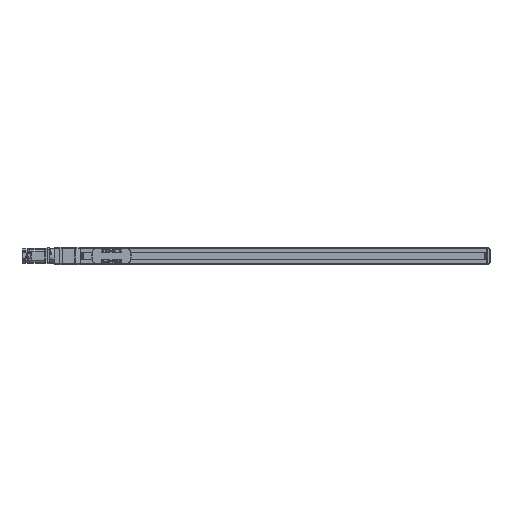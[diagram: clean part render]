
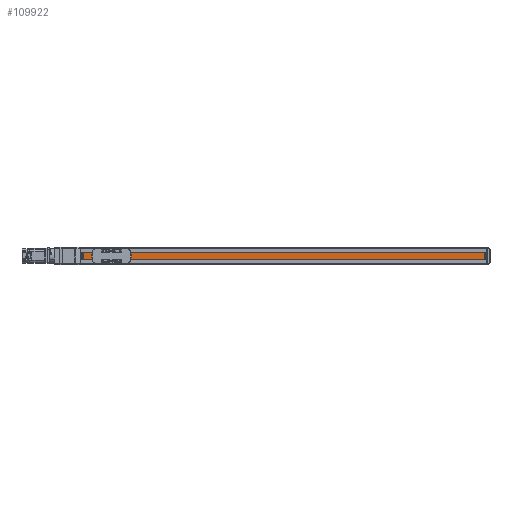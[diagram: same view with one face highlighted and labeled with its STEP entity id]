
A CAD part, top view. The second image highlights one B-rep face of the part: STEP entity #109922.
In plain terms, the highlighted planar face has unit normal (0, 0, 1) as drawn and (0, 1, 0) by its records, which use the part's own axes.
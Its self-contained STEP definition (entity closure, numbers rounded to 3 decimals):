
#109922 = ADVANCED_FACE('',(#109923),#109937,.T.);
#109923 = FACE_BOUND('',#109924,.T.);
#109924 = EDGE_LOOP('',(#109925,#109960,#109988,#110016));
#109925 = ORIENTED_EDGE('',*,*,#109926,.F.);
#109926 = EDGE_CURVE('',#109927,#109929,#109931,.T.);
#109927 = VERTEX_POINT('',#109928);
#109928 = CARTESIAN_POINT('',(-1530.5,18.,-13.));
#109929 = VERTEX_POINT('',#109930);
#109930 = CARTESIAN_POINT('',(-21.5,18.,-13.));
#109931 = SURFACE_CURVE('',#109932,(#109936,#109948),.PCURVE_S1.);
#109932 = LINE('',#109933,#109934);
#109933 = CARTESIAN_POINT('',(-1530.5,18.,-13.));
#109934 = VECTOR('',#109935,1.);
#109935 = DIRECTION('',(1.,0.,0.));
#109936 = PCURVE('',#109937,#109942);
#109937 = PLANE('',#109938);
#109938 = AXIS2_PLACEMENT_3D('',#109939,#109940,#109941);
#109939 = CARTESIAN_POINT('',(-1540.5,18.,-26.583));
#109940 = DIRECTION('',(0.,1.,0.));
#109941 = DIRECTION('',(0.,-0.,1.));
#109942 = DEFINITIONAL_REPRESENTATION('',(#109943),#109947);
#109943 = LINE('',#109944,#109945);
#109944 = CARTESIAN_POINT('',(13.583,10.));
#109945 = VECTOR('',#109946,1.);
#109946 = DIRECTION('',(0.,1.));
#109947 = ( GEOMETRIC_REPRESENTATION_CONTEXT(2) 
PARAMETRIC_REPRESENTATION_CONTEXT() REPRESENTATION_CONTEXT('2D SPACE',''
  ) );
#109948 = PCURVE('',#109949,#109954);
#109949 = PLANE('',#109950);
#109950 = AXIS2_PLACEMENT_3D('',#109951,#109952,#109953);
#109951 = CARTESIAN_POINT('',(-1530.5,18.,-13.));
#109952 = DIRECTION('',(0.,0.,1.));
#109953 = DIRECTION('',(1.,0.,-0.));
#109954 = DEFINITIONAL_REPRESENTATION('',(#109955),#109959);
#109955 = LINE('',#109956,#109957);
#109956 = CARTESIAN_POINT('',(0.,0.));
#109957 = VECTOR('',#109958,1.);
#109958 = DIRECTION('',(1.,0.));
#109959 = ( GEOMETRIC_REPRESENTATION_CONTEXT(2) 
PARAMETRIC_REPRESENTATION_CONTEXT() REPRESENTATION_CONTEXT('2D SPACE',''
  ) );
#109960 = ORIENTED_EDGE('',*,*,#109961,.T.);
#109961 = EDGE_CURVE('',#109927,#109962,#109964,.T.);
#109962 = VERTEX_POINT('',#109963);
#109963 = CARTESIAN_POINT('',(-1530.5,18.,13.));
#109964 = SURFACE_CURVE('',#109965,(#109969,#109976),.PCURVE_S1.);
#109965 = LINE('',#109966,#109967);
#109966 = CARTESIAN_POINT('',(-1530.5,18.,-26.583));
#109967 = VECTOR('',#109968,1.);
#109968 = DIRECTION('',(0.,0.,1.));
#109969 = PCURVE('',#109937,#109970);
#109970 = DEFINITIONAL_REPRESENTATION('',(#109971),#109975);
#109971 = LINE('',#109972,#109973);
#109972 = CARTESIAN_POINT('',(0.,10.));
#109973 = VECTOR('',#109974,1.);
#109974 = DIRECTION('',(1.,0.));
#109975 = ( GEOMETRIC_REPRESENTATION_CONTEXT(2) 
PARAMETRIC_REPRESENTATION_CONTEXT() REPRESENTATION_CONTEXT('2D SPACE',''
  ) );
#109976 = PCURVE('',#109977,#109982);
#109977 = PLANE('',#109978);
#109978 = AXIS2_PLACEMENT_3D('',#109979,#109980,#109981);
#109979 = CARTESIAN_POINT('',(-1530.5,0.,0.));
#109980 = DIRECTION('',(1.,0.,0.));
#109981 = DIRECTION('',(0.,0.,-1.));
#109982 = DEFINITIONAL_REPRESENTATION('',(#109983),#109987);
#109983 = LINE('',#109984,#109985);
#109984 = CARTESIAN_POINT('',(26.583,18.));
#109985 = VECTOR('',#109986,1.);
#109986 = DIRECTION('',(-1.,0.));
#109987 = ( GEOMETRIC_REPRESENTATION_CONTEXT(2) 
PARAMETRIC_REPRESENTATION_CONTEXT() REPRESENTATION_CONTEXT('2D SPACE',''
  ) );
#109988 = ORIENTED_EDGE('',*,*,#109989,.T.);
#109989 = EDGE_CURVE('',#109962,#109990,#109992,.T.);
#109990 = VERTEX_POINT('',#109991);
#109991 = CARTESIAN_POINT('',(-21.5,18.,13.));
#109992 = SURFACE_CURVE('',#109993,(#109997,#110004),.PCURVE_S1.);
#109993 = LINE('',#109994,#109995);
#109994 = CARTESIAN_POINT('',(-1530.5,18.,13.));
#109995 = VECTOR('',#109996,1.);
#109996 = DIRECTION('',(1.,0.,0.));
#109997 = PCURVE('',#109937,#109998);
#109998 = DEFINITIONAL_REPRESENTATION('',(#109999),#110003);
#109999 = LINE('',#110000,#110001);
#110000 = CARTESIAN_POINT('',(39.583,10.));
#110001 = VECTOR('',#110002,1.);
#110002 = DIRECTION('',(0.,1.));
#110003 = ( GEOMETRIC_REPRESENTATION_CONTEXT(2) 
PARAMETRIC_REPRESENTATION_CONTEXT() REPRESENTATION_CONTEXT('2D SPACE',''
  ) );
#110004 = PCURVE('',#110005,#110010);
#110005 = PLANE('',#110006);
#110006 = AXIS2_PLACEMENT_3D('',#110007,#110008,#110009);
#110007 = CARTESIAN_POINT('',(-1530.5,15.,13.));
#110008 = DIRECTION('',(0.,0.,-1.));
#110009 = DIRECTION('',(-1.,0.,0.));
#110010 = DEFINITIONAL_REPRESENTATION('',(#110011),#110015);
#110011 = LINE('',#110012,#110013);
#110012 = CARTESIAN_POINT('',(0.,3.));
#110013 = VECTOR('',#110014,1.);
#110014 = DIRECTION('',(-1.,0.));
#110015 = ( GEOMETRIC_REPRESENTATION_CONTEXT(2) 
PARAMETRIC_REPRESENTATION_CONTEXT() REPRESENTATION_CONTEXT('2D SPACE',''
  ) );
#110016 = ORIENTED_EDGE('',*,*,#110017,.T.);
#110017 = EDGE_CURVE('',#109990,#109929,#110018,.T.);
#110018 = SURFACE_CURVE('',#110019,(#110023,#110030),.PCURVE_S1.);
#110019 = LINE('',#110020,#110021);
#110020 = CARTESIAN_POINT('',(-21.5,18.,-26.583));
#110021 = VECTOR('',#110022,1.);
#110022 = DIRECTION('',(0.,0.,-1.));
#110023 = PCURVE('',#109937,#110024);
#110024 = DEFINITIONAL_REPRESENTATION('',(#110025),#110029);
#110025 = LINE('',#110026,#110027);
#110026 = CARTESIAN_POINT('',(0.,1519.));
#110027 = VECTOR('',#110028,1.);
#110028 = DIRECTION('',(-1.,0.));
#110029 = ( GEOMETRIC_REPRESENTATION_CONTEXT(2) 
PARAMETRIC_REPRESENTATION_CONTEXT() REPRESENTATION_CONTEXT('2D SPACE',''
  ) );
#110030 = PCURVE('',#110031,#110036);
#110031 = PLANE('',#110032);
#110032 = AXIS2_PLACEMENT_3D('',#110033,#110034,#110035);
#110033 = CARTESIAN_POINT('',(-21.5,0.,0.));
#110034 = DIRECTION('',(1.,0.,0.));
#110035 = DIRECTION('',(0.,0.,-1.));
#110036 = DEFINITIONAL_REPRESENTATION('',(#110037),#110041);
#110037 = LINE('',#110038,#110039);
#110038 = CARTESIAN_POINT('',(26.583,18.));
#110039 = VECTOR('',#110040,1.);
#110040 = DIRECTION('',(1.,0.));
#110041 = ( GEOMETRIC_REPRESENTATION_CONTEXT(2) 
PARAMETRIC_REPRESENTATION_CONTEXT() REPRESENTATION_CONTEXT('2D SPACE',''
  ) );
